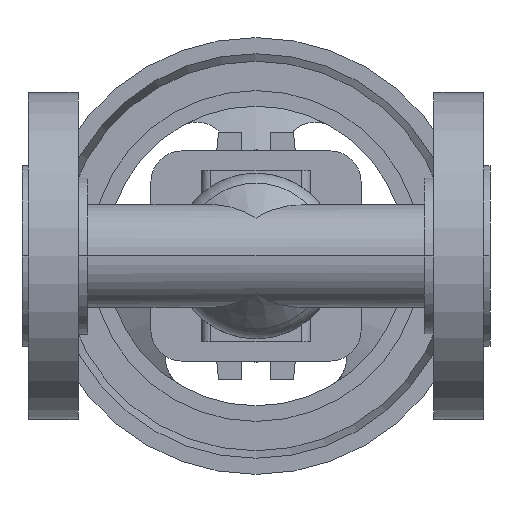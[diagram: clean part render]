
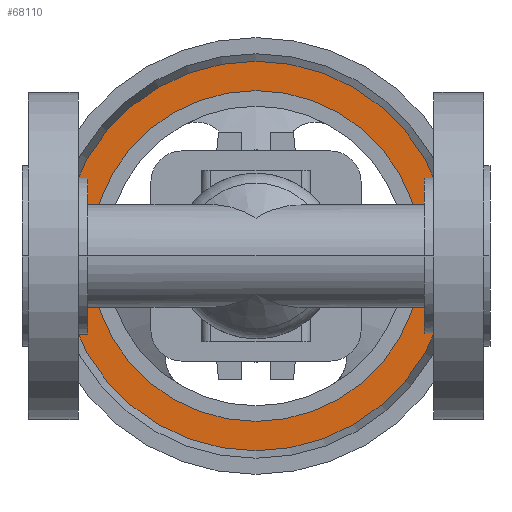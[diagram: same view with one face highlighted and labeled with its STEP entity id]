
A CAD part, front view. The second image highlights one B-rep face of the part: STEP entity #68110.
In plain terms, the highlighted planar face has unit normal (0, -1, 0).
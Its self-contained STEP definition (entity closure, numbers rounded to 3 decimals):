
#67560=CARTESIAN_POINT('',(137.412,246.7,0.)
);
#67570=VERTEX_POINT('',#67560);
#67650=CARTESIAN_POINT('',(12.588,246.7,0.));
#67660=VERTEX_POINT('',#67650);
#67690=CARTESIAN_POINT('',(75.,246.7,0.));
#67700=DIRECTION('',(0.,1.,0.));
#67710=DIRECTION('',(-1.,0.,0.));
#67720=AXIS2_PLACEMENT_3D('',#67690,#67700,#67710);
#67730=CIRCLE('',#67720,62.412);
#67740=EDGE_CURVE('',#67570,#67660,#67730,.T.);
#67860=CARTESIAN_POINT('',(17.294,246.7,0.))
;
#67870=DIRECTION('',(0.,-1.,0.));
#67880=DIRECTION('',(1.,0.,0.));
#67890=AXIS2_PLACEMENT_3D('',#67860,#67870,#67880);
#67900=PLANE('',#67890);
#67910=EDGE_CURVE('',#67660,#67570,#67730,.T.);
#67920=ORIENTED_EDGE('',*,*,#67910,.F.);
#67930=ORIENTED_EDGE('',*,*,#67740,.F.);
#67940=EDGE_LOOP('',(#67930,#67920));
#67950=FACE_OUTER_BOUND('',#67940,.T.);
#67960=CARTESIAN_POINT('',(75.,246.7,0.));
#67970=DIRECTION('',(0.,1.,0.));
#67980=DIRECTION('',(-1.,0.,0.));
#67990=AXIS2_PLACEMENT_3D('',#67960,#67970,#67980);
#68000=CIRCLE('',#67990,53.);
#68010=CARTESIAN_POINT('',(22.,246.7,0.));
#68020=VERTEX_POINT('',#68010);
#68030=CARTESIAN_POINT('',(128.,246.7,0.));
#68040=VERTEX_POINT('',#68030);
#68050=EDGE_CURVE('',#68020,#68040,#68000,.T.);
#68060=ORIENTED_EDGE('',*,*,#68050,.T.);
#68070=EDGE_CURVE('',#68040,#68020,#68000,.T.);
#68080=ORIENTED_EDGE('',*,*,#68070,.T.);
#68090=EDGE_LOOP('',(#68080,#68060));
#68100=FACE_BOUND('',#68090,.T.);
#68110=ADVANCED_FACE('',(#67950,#68100),#67900,.T.);
